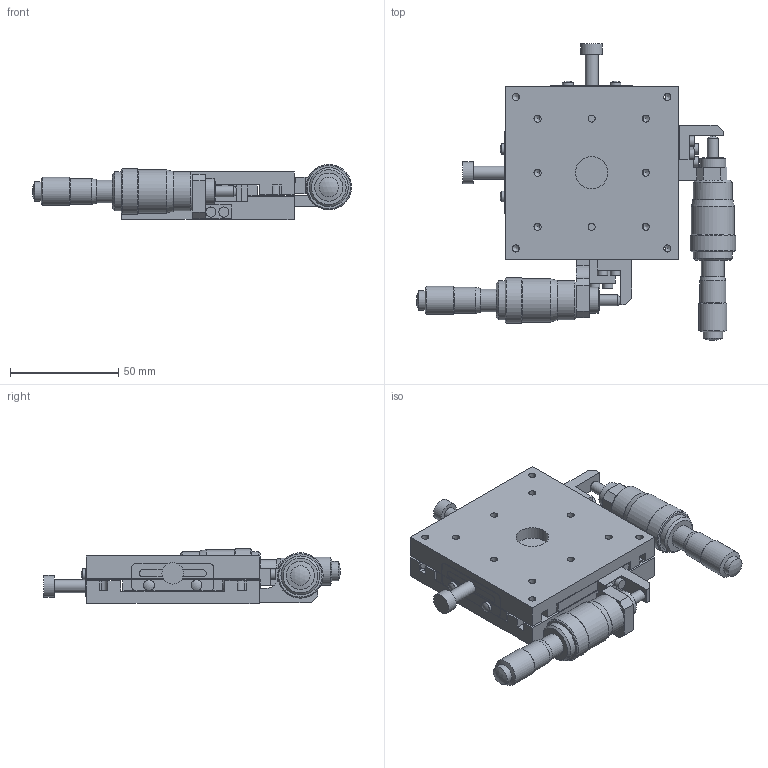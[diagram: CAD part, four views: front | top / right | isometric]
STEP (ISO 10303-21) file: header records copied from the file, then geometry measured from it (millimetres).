
FILE_DESCRIPTION( ( 'STEP AP203' ), '1' );
FILE_NAME( 'C:/Project/3D_B23-80DR+070521.stp', '2007-05-21T09:51:05', ( ' ' ), ( ' ' ), 'XStep 1.0', ' ', ' ' );
FILE_SCHEMA( ( 'CONFIG_CONTROL_DESIGN' ) );
Length unit declared in the file: millimetre
Products named in the file (5): 1; 2; 3; 4; 5
Bounding box: 147.46 x 137.11 x 25.5 mm (x, y, z)
Volume: 169325.1 mm3; surface area: 69292.6 mm2
Topology: 5 solids, 5 shells, 299 faces, 821 edges, 540 vertices
Faces by surface type: plane 179, cylinder 86, cone 26, sphere 8
Full cylindrical faces by diameter (mm): 3 x2, 3.3 x12, 4.5 x4, 4.7 x8, 5 x8, 6 x2, 8 x4, 9 x2, 9.5 x2, 10 x2, 10.5 x4, 12 x4, 13 x2, 15 x1, 18 x4, 20 x2, 21 x2
Entity records: 8798 total; most frequent: CARTESIAN_POINT 1552, DIRECTION 1456, ORIENTED_EDGE 1316, EDGE_CURVE 658, AXIS2_PLACEMENT_3D 504, VERTEX_POINT 480, LINE 448, VECTOR 448
